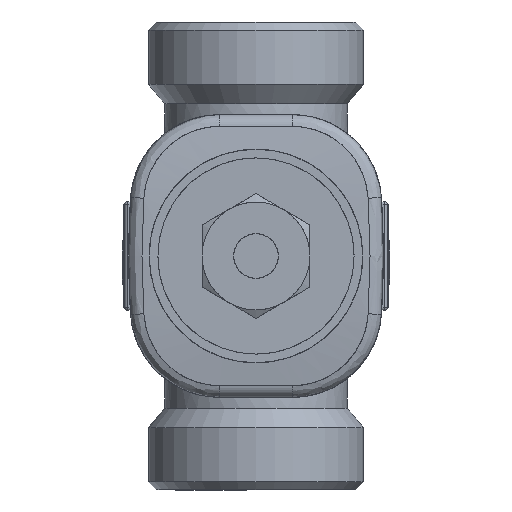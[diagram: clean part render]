
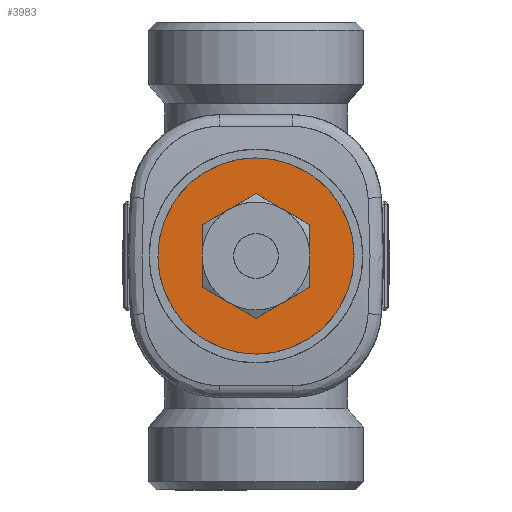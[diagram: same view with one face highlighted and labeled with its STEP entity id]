
A CAD part, front view. The second image highlights one B-rep face of the part: STEP entity #3983.
In plain terms, the highlighted planar face has unit normal (0, 1, 0).
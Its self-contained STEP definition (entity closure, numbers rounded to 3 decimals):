
#728=B_SPLINE_CURVE_WITH_KNOTS('',3,(#19789,#19790,#19791,#19792,#19793,
#19794,#19795,#19796,#19797,#19798),.UNSPECIFIED.,.F.,.F.,(4,2,2,2,4),(0.,
0.25,0.5,0.75,1.),.UNSPECIFIED.);
#729=B_SPLINE_CURVE_WITH_KNOTS('',3,(#19801,#19802,#19803,#19804,#19805,
#19806,#19807,#19808,#19809,#19810),.UNSPECIFIED.,.F.,.F.,(4,2,2,2,4),(0.,
0.25,0.5,0.75,1.),.UNSPECIFIED.);
#730=B_SPLINE_CURVE_WITH_KNOTS('',3,(#19812,#19813,#19814,#19815,#19816,
#19817,#19818,#19819,#19820,#19821),.UNSPECIFIED.,.F.,.F.,(4,2,2,2,4),(0.,
0.25,0.5,0.75,1.),.UNSPECIFIED.);
#731=B_SPLINE_CURVE_WITH_KNOTS('',3,(#19823,#19824,#19825,#19826,#19827,
#19828,#19829,#19830,#19831,#19832),.UNSPECIFIED.,.F.,.F.,(4,2,2,2,4),(0.,
0.25,0.5,0.75,1.),.UNSPECIFIED.);
#3983=ADVANCED_FACE('',(#4587),#4322,.T.);
#4322=PLANE('',#14752);
#4587=FACE_OUTER_BOUND('',#4941,.T.);
#4941=EDGE_LOOP('',(#5927,#5928,#5929,#5930));
#5927=ORIENTED_EDGE('',*,*,#10065,.T.);
#5928=ORIENTED_EDGE('',*,*,#10066,.T.);
#5929=ORIENTED_EDGE('',*,*,#10067,.T.);
#5930=ORIENTED_EDGE('',*,*,#10068,.T.);
#7996=VERTEX_POINT('',#19799);
#7997=VERTEX_POINT('',#19800);
#7998=VERTEX_POINT('',#19811);
#7999=VERTEX_POINT('',#19822);
#10065=EDGE_CURVE('',#7996,#7997,#728,.T.);
#10066=EDGE_CURVE('',#7997,#7998,#729,.T.);
#10067=EDGE_CURVE('',#7998,#7999,#730,.T.);
#10068=EDGE_CURVE('',#7999,#7996,#731,.T.);
#14752=AXIS2_PLACEMENT_3D('',#19833,#16126,#16127);
#16126=DIRECTION('',(0.,1.,0.));
#16127=DIRECTION('',(1.,0.,0.));
#19789=CARTESIAN_POINT('',(0.,-62.,74.5));
#19790=CARTESIAN_POINT('',(2.609,-62.,74.5));
#19791=CARTESIAN_POINT('',(5.379,-62.,74.032));
#19792=CARTESIAN_POINT('',(10.818,-62.,71.879));
#19793=CARTESIAN_POINT('',(13.41,-62.,70.202));
#19794=CARTESIAN_POINT('',(17.702,-62.,65.911));
#19795=CARTESIAN_POINT('',(19.39,-62.,63.29));
#19796=CARTESIAN_POINT('',(21.521,-62.,57.906));
#19797=CARTESIAN_POINT('',(22.,-62.,55.118));
#19798=CARTESIAN_POINT('',(22.,-62.,52.5));
#19799=CARTESIAN_POINT('',(0.,-62.,74.5));
#19800=CARTESIAN_POINT('',(22.,-62.,52.5));
#19801=CARTESIAN_POINT('',(22.,-62.,52.5));
#19802=CARTESIAN_POINT('',(22.,-62.,49.891));
#19803=CARTESIAN_POINT('',(21.532,-62.,47.121));
#19804=CARTESIAN_POINT('',(19.379,-62.,41.682));
#19805=CARTESIAN_POINT('',(17.702,-62.,39.09));
#19806=CARTESIAN_POINT('',(13.411,-62.,34.798));
#19807=CARTESIAN_POINT('',(10.79,-62.,33.11));
#19808=CARTESIAN_POINT('',(5.406,-62.,30.979));
#19809=CARTESIAN_POINT('',(2.618,-62.,30.5));
#19810=CARTESIAN_POINT('',(0.,-62.,30.5));
#19811=CARTESIAN_POINT('',(0.,-62.,30.5));
#19812=CARTESIAN_POINT('',(0.,-62.,30.5));
#19813=CARTESIAN_POINT('',(-2.609,-62.,30.5));
#19814=CARTESIAN_POINT('',(-5.379,-62.,30.968));
#19815=CARTESIAN_POINT('',(-10.818,-62.,33.121));
#19816=CARTESIAN_POINT('',(-13.41,-62.,34.798));
#19817=CARTESIAN_POINT('',(-17.702,-62.,39.089));
#19818=CARTESIAN_POINT('',(-19.39,-62.,41.71));
#19819=CARTESIAN_POINT('',(-21.521,-62.,47.094));
#19820=CARTESIAN_POINT('',(-22.,-62.,49.882));
#19821=CARTESIAN_POINT('',(-22.,-62.,52.5));
#19822=CARTESIAN_POINT('',(-22.,-62.,52.5));
#19823=CARTESIAN_POINT('',(-22.,-62.,52.5));
#19824=CARTESIAN_POINT('',(-22.,-62.,55.109));
#19825=CARTESIAN_POINT('',(-21.532,-62.,57.879));
#19826=CARTESIAN_POINT('',(-19.379,-62.,63.318));
#19827=CARTESIAN_POINT('',(-17.702,-62.,65.91));
#19828=CARTESIAN_POINT('',(-13.411,-62.,70.202));
#19829=CARTESIAN_POINT('',(-10.79,-62.,71.89));
#19830=CARTESIAN_POINT('',(-5.406,-62.,74.021));
#19831=CARTESIAN_POINT('',(-2.618,-62.,74.5));
#19832=CARTESIAN_POINT('',(0.,-62.,74.5));
#19833=CARTESIAN_POINT('',(-22.88,-62.,75.38));
